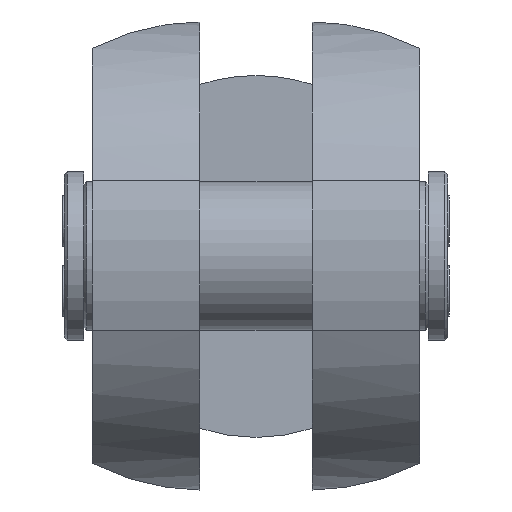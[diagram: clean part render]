
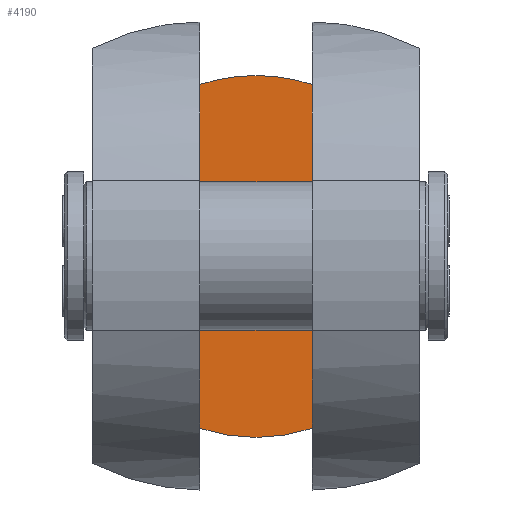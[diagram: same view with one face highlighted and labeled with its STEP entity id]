
A CAD part, top view. The second image highlights one B-rep face of the part: STEP entity #4190.
In plain terms, the highlighted planar face has unit normal (0, 0, 1).
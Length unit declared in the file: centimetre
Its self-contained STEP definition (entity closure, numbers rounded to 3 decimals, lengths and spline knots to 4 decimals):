
#406=LINE('',#6723,#790);
#407=LINE('',#6725,#791);
#790=VECTOR('',#5221,24.4814);
#791=VECTOR('',#5224,24.4814);
#959=PLANE('',#4441);
#1304=FACE_OUTER_BOUND('',#1565,.T.);
#1565=EDGE_LOOP('',(#3502,#3503,#3504,#3505));
#1713=CIRCLE('',#4296,12.8777);
#1714=CIRCLE('',#4297,12.8777);
#1791=VERTEX_POINT('',#5590);
#1792=VERTEX_POINT('',#5594);
#1797=VERTEX_POINT('',#5634);
#1798=VERTEX_POINT('',#5638);
#2168=EDGE_CURVE('',#1791,#1792,#1713,.T.);
#2174=EDGE_CURVE('',#1797,#1798,#1714,.T.);
#2569=EDGE_CURVE('',#1798,#1791,#406,.T.);
#2570=EDGE_CURVE('',#1797,#1792,#407,.T.);
#3502=ORIENTED_EDGE('',*,*,#2174,.F.);
#3503=ORIENTED_EDGE('',*,*,#2570,.T.);
#3504=ORIENTED_EDGE('',*,*,#2168,.F.);
#3505=ORIENTED_EDGE('',*,*,#2569,.F.);
#4190=ADVANCED_FACE('',(#1304),#959,.F.);
#4296=AXIS2_PLACEMENT_3D('',#5595,#4597,#4598);
#4297=AXIS2_PLACEMENT_3D('',#5639,#4599,#4600);
#4441=AXIS2_PLACEMENT_3D('',#6724,#5222,#5223);
#4597=DIRECTION('center_axis',(0.,0.,
-1.));
#4598=DIRECTION('ref_axis',(0.,1.,0.));
#4599=DIRECTION('center_axis',(0.,0.,
-1.));
#4600=DIRECTION('ref_axis',(0.,1.,0.));
#5221=DIRECTION('',(0.,-1.,0.));
#5222=DIRECTION('center_axis',(0.,0.,
-1.));
#5223=DIRECTION('ref_axis',(1.,0.,0.));
#5224=DIRECTION('',(0.,-1.,0.));
#5590=CARTESIAN_POINT('',(4.,-12.2407,-20.));
#5594=CARTESIAN_POINT('',(-4.,-12.2407,-20.));
#5595=CARTESIAN_POINT('Origin',(0.,0.,
-20.));
#5634=CARTESIAN_POINT('',(-4.,12.2407,-20.));
#5638=CARTESIAN_POINT('',(4.,12.2407,-20.));
#5639=CARTESIAN_POINT('Origin',(0.,0.,
-20.));
#6723=CARTESIAN_POINT('',(4.,0.,-20.));
#6724=CARTESIAN_POINT('Origin',(-4.,0.,
-20.));
#6725=CARTESIAN_POINT('',(-4.,0.,-20.));
